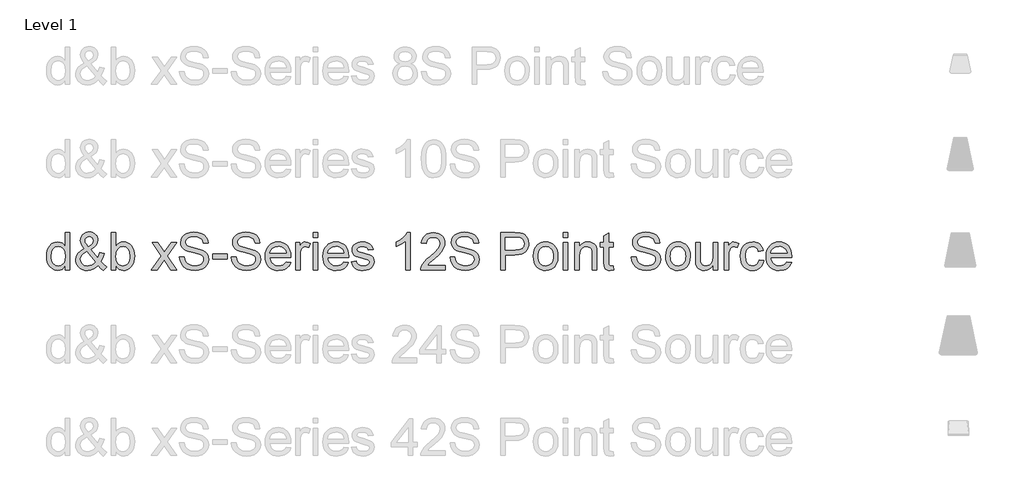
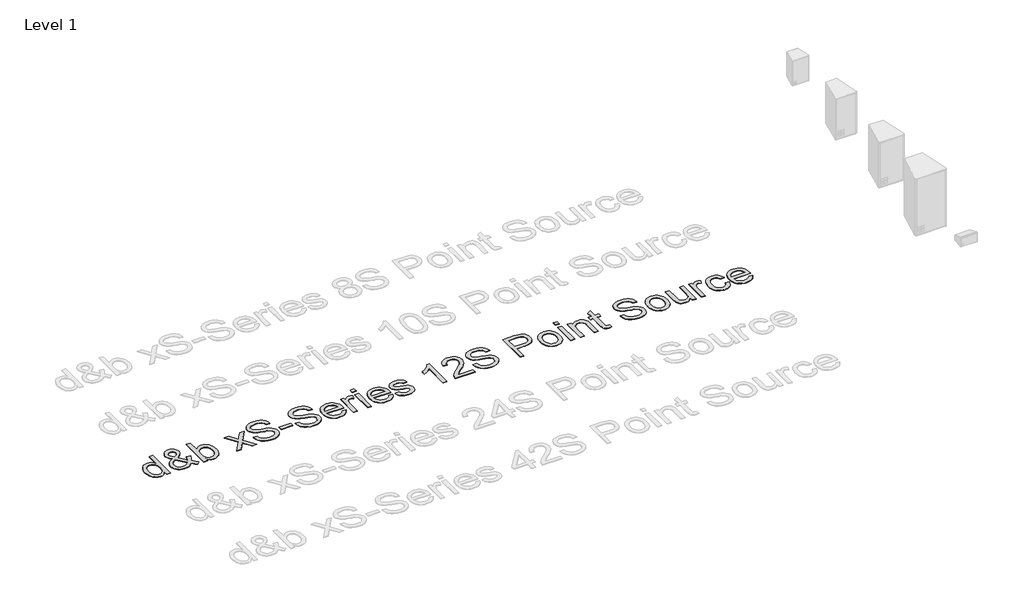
# One storey, part 46 of 55: 1 proxy.
"""IFC4 building model written with IfcOpenShell, lengths in millimetres."""

from ifc_helpers import new_model, si_unit, origin, origin_with_axes, place, context, project, spatial, polyline, outline, extrude, element, save

model = new_model("IFC4")

# Units and contexts
model_context = context("Model", 3, world=origin())
ifc_project = project(units=[si_unit("LENGTHUNIT", "METRE", prefix="MILLI")], contexts=[model_context])

# Site, building, storey
site = spatial("IfcSite", under=ifc_project)
building = spatial("IfcBuilding", under=site)
storey = spatial("IfcBuildingStorey", under=building, Name="Level 1", Elevation=0.0)

# Proxy
placement = place(None, origin())
element("IfcBuildingElementProxy", 1, Name="400mm Arial", ObjectType="400mm Arial", at=placement, inside=storey, context=model_context, shape_type="SweptSolid", body=[
    extrude(outline(polyline([(-20879.8211974, 12351.3054836), (-20879.8211974, 12398.6886846), (-20894.8491769, 12375.2116819), (-20913.0532043, 12358.4423943), (-20934.4332796, 12348.3808217), (-20958.9894028, 12345.0269642), (-20991.4611202, 12349.8830065), (-21021.1859854, 12364.4511335), (-21046.3491139, 12387.7135384), (-21065.1356211, 12418.6524142), (-21076.8342686, 12456.0169621), (-21080.7338177, 12498.5563835), (-21077.1408369, 12540.5685074), (-21066.3618944, 12578.5094038), (-21048.4092531, 12610.2208318), (-21023.2951755, 12633.5445503), (-20992.9203855, 12647.8919481), (-20959.1856065, 12652.674414), (-20934.6110892, 12649.2531115), (-20912.8815261, 12638.9892038), (-20894.4629008, 12623.2561171), (-20879.8211974, 12603.4272776), (-20879.8211974, 12753.1307242), (-20829.5930424, 12753.1307242), (-20829.5930424, 12351.3054836), (-20879.8211974, 12351.3054836)]), holes=[polyline([(-21030.5056627, 12498.7525872), (-21029.089317, 12474.3957335), (-21024.8402799, 12453.3191608), (-21017.7585515, 12435.5228693), (-21007.8441318, 12421.0068589), (-20983.1469871, 12401.6930542), (-20969.2717046, 12396.864603), (-20954.3786151, 12395.2551193), (-20939.415015, 12396.7910266), (-20925.6225058, 12401.3987486), (-20901.5507606, 12419.8296365), (-20892.0440767, 12433.7386416), (-20885.2535882, 12450.8911397), (-20879.8211974, 12494.9266145), (-20885.3516901, 12543.0701049), (-20892.2648059, 12561.6052261), (-20901.9431681, 12576.4492646), (-20913.6448812, 12587.8229496), (-20926.6280499, 12595.9470104), (-20940.8926743, 12600.8214468), (-20956.4387543, 12602.4462589), (-20971.6261493, 12600.8858262), (-20985.5014319, 12596.2045278), (-20998.064602, 12588.4023638), (-21009.3156597, 12577.4793342), (-21018.586286, 12563.1963157), (-21025.2081619, 12545.3141851), (-21030.5056627, 12498.7525872)])]), origin_with_axes(), (0.0, 0.0, 1.0), 5.0),
    extrude(outline(polyline([(-20523.809528, 12400.9450275), (-20549.3405384, 12376.4808748), (-20577.0788409, 12359.00648), (-20607.0734862, 12348.5218431), (-20639.3735254, 12345.0269642), (-20668.6814577, 12347.6144009), (-20694.8010793, 12355.376711), (-20717.7323904, 12368.3138945), (-20737.4753908, 12386.4259514), (-20750.308341, 12403.7961129), (-20759.4747341, 12422.1595558), (-20764.9745699, 12441.5162802), (-20766.8078485, 12461.8662859), (-20760.9094739, 12497.0603301), (-20743.2143499, 12528.6736562), (-20713.796053, 12556.6817387), (-20672.7281596, 12581.0600523), (-20694.6416638, 12609.4114914), (-20707.7995765, 12631.8768186), (-20714.3846642, 12651.0557332), (-20716.5796934, 12669.5479349), (-20714.8506481, 12687.1020374), (-20709.6635119, 12703.4666548), (-20701.018285, 12718.6417871), (-20688.9149674, 12732.6274343), (-20674.1935562, 12744.3444759), (-20657.6940487, 12752.7137912), (-20639.4164449, 12757.7353805), (-20619.3607448, 12759.4092436), (-20600.212487, 12757.8089569), (-20582.8913764, 12753.0080968), (-20567.397413, 12745.0066634), (-20553.7305969, 12733.8046567), (-20542.5715097, 12720.3585698), (-20534.6007332, 12705.6248959), (-20529.8182672, 12689.603635), (-20528.2241119, 12672.2947871), (-20532.9452642, 12644.31123), (-20547.108721, 12618.436863), (-20570.7144823, 12594.6716861), (-20603.7625482, 12573.0156993), (-20531.069066, 12482.4676776), (-20518.6837055, 12508.3420446), (-20509.3885538, 12538.0914353), (-20459.1603987, 12527.2021282), (-20474.6114425, 12480.6773185), (-20494.6732739, 12444.5022557), (-20466.1256311, 12411.1966724), (-20434.0463211, 12383.6790991), (-20471.7174374, 12345.0269642), (-20497.3465498, 12368.47331), (-20523.809528, 12400.9450275)]), holes=[polyline([(-20557.4584678, 12437.1446158), (-20647.1235727, 12549.0788442), (-20681.3733865, 12527.2266537), (-20702.305872, 12506.9931439), (-20713.0112381, 12487.6670765), (-20716.5796934, 12468.5372127), (-20711.6991256, 12444.8456122), (-20697.0574222, 12420.2710949), (-20686.2784798, 12409.3266056), (-20673.4639236, 12401.5091132), (-20658.6137537, 12396.8186177), (-20641.7279702, 12395.2551193), (-20619.0051256, 12398.1736498), (-20595.5710425, 12406.9292412), (-20574.1480476, 12420.3201459), (-20557.4584678, 12437.1446158)]), polyline([(-20629.1709314, 12604.7026019), (-20602.9041569, 12621.3676562), (-20587.8700461, 12635.8499441), (-20580.8067117, 12649.9398245), (-20578.452267, 12665.4276565), (-20581.5547385, 12682.9756277), (-20590.862153, 12696.9674062), (-20604.829406, 12706.1276679), (-20621.9113933, 12709.1810885), (-20639.3612626, 12706.1521934), (-20653.6473468, 12697.0655081), (-20663.1754905, 12683.6132898), (-20666.3515384, 12667.4877957), (-20662.0350563, 12649.0936959), (-20648.9875082, 12628.639457), (-20629.1709314, 12604.7026019)])]), origin_with_axes(), (0.0, 0.0, 1.0), 5.0),
    extrude(outline(polyline([(-20333.590011, 12351.3054836), (-20383.8181661, 12351.3054836), (-20383.8181661, 12753.1307242), (-20333.590011, 12753.1307242), (-20333.590011, 12604.1139907), (-20317.0721094, 12625.3591759), (-20298.4204923, 12640.5343082), (-20277.6351595, 12649.6393876), (-20254.7161112, 12652.674414), (-20228.8417442, 12649.9398245), (-20204.3898543, 12641.736056), (-20182.758393, 12628.5781433), (-20165.3453119, 12610.9811212), (-20151.6968898, 12589.116668), (-20141.3594058, 12563.1564619), (-20134.8478945, 12534.1796234), (-20132.6773907, 12503.265273), (-20134.9245365, 12467.5929822), (-20141.6659741, 12436.2126481), (-20152.9017034, 12409.1242705), (-20168.6317244, 12386.3278495), (-20187.5132678, 12368.2587122), (-20208.2035643, 12355.3521855), (-20230.702614, 12347.6082695), (-20255.0104168, 12345.0269642), (-20278.6836232, 12348.3562962), (-20299.671291, 12358.3442924), (-20317.9734203, 12374.9909527), (-20333.590011, 12398.2962771), (-20333.590011, 12351.3054836)]), holes=[polyline([(-20333.590011, 12500.9108283), (-20330.1564457, 12459.0213318), (-20319.8557498, 12430.6698927), (-20307.6849872, 12415.1759293), (-20293.5399244, 12404.1088126), (-20277.4205617, 12397.4685426), (-20259.3268989, 12395.2551193), (-20244.3050508, 12396.8860628), (-20230.3377977, 12401.7788933), (-20217.4251396, 12409.9336109), (-20205.5670767, 12421.3502155), (-20195.6526569, 12435.9980502), (-20188.5709285, 12453.8464584), (-20184.3218914, 12474.8954399), (-20182.9055458, 12499.1449947), (-20188.3379366, 12545.1057186), (-20195.1284251, 12562.8989445), (-20204.6351089, 12577.2340795), (-20216.0670419, 12588.264408), (-20228.6332778, 12596.1432141), (-20242.3338164, 12600.8704977), (-20257.1686579, 12602.4462589), (-20272.190506, 12600.8153154), (-20286.1577591, 12595.9224849), (-20299.0704171, 12587.7677673), (-20310.9284801, 12576.3511628), (-20320.8428999, 12561.8504808), (-20327.9246283, 12544.443531), (-20332.1736653, 12524.1303135), (-20333.590011, 12500.9108283)])]), origin_with_axes(), (0.0, 0.0, 1.0), 5.0),
    extrude(outline(polyline([(-19950.6003285, 12351.3054836), (-19843.2768878, 12499.7336059), (-19944.3218092, 12646.3958946), (-19884.0872638, 12646.3958946), (-19835.3306367, 12575.6644497), (-19812.4729021, 12542.4079173), (-19792.6563253, 12569.6802359), (-19737.1306695, 12646.3958946), (-19676.6999204, 12646.3958946), (-19782.8461387, 12499.635504), (-19680.623995, 12351.3054836), (-19740.9566422, 12351.3054836), (-19802.5646137, 12440.5781811), (-19813.7482263, 12456.9611926), (-19890.1695795, 12351.3054836), (-19950.6003285, 12351.3054836)])), origin_with_axes(), (0.0, 0.0, 1.0), 5.0),
    extrude(outline(polyline([(-19649.2313981, 12489.43291), (-19599.003243, 12489.43291), (-19593.2397584, 12461.5597175), (-19582.8164352, 12439.155704), (-19566.556051, 12421.3747409), (-19543.2813835, 12407.3706996), (-19514.8318425, 12398.2840144), (-19483.0468381, 12395.2551193), (-19455.063281, 12397.5482504), (-19430.5623402, 12404.4276437), (-19410.7089752, 12415.3169507), (-19396.6681457, 12429.6398231), (-19388.3172244, 12446.0841483), (-19385.533584, 12463.3378138), (-19387.6182486, 12480.150021), (-19393.8722425, 12494.6813598), (-19406.5764341, 12507.0789831), (-19428.0116917, 12517.4900435), (-19501.1466323, 12536.6689582), (-19549.1552327, 12549.360887), (-19579.8733793, 12561.4396792), (-19604.8770922, 12578.3377255), (-19622.5967416, 12598.8164899), (-19633.1549549, 12622.434514), (-19636.6743593, 12648.7503394), (-19632.3210891, 12678.1686363), (-19619.2612782, 12705.6003704), (-19597.8382834, 12728.8505125), (-19568.395461, 12745.7240333), (-19533.054264, 12755.987941), (-19493.9361452, 12759.4092436), (-19451.5561394, 12755.8285255), (-19414.4736342, 12745.0863712), (-19384.013005, 12727.40351), (-19361.4986269, 12703.000671), (-19347.249331, 12673.3984331), (-19341.5839483, 12640.1173753), (-19391.8121033, 12640.1173753), (-19401.0336787, 12670.0874951), (-19409.3968627, 12681.9455581), (-19420.2616443, 12691.7189564), (-19450.3053406, 12704.8155555), (-19491.9741079, 12709.1810885), (-19534.6238939, 12704.8646064), (-19550.9271976, 12699.4690038), (-19563.8827752, 12691.9151602), (-19580.805347, 12672.8588728), (-19586.4462043, 12650.2218674), (-19582.4485532, 12630.9203254), (-19570.4556002, 12615.3957052), (-19542.1041611, 12601.5142912), (-19488.4424407, 12587.3385717), (-19433.0639377, 12573.8740907), (-19399.5621507, 12562.1263923), (-19370.9286687, 12543.9039708), (-19350.9526764, 12521.4141181), (-19339.2172408, 12494.902089), (-19335.3054289, 12464.6131381), (-19339.805852, 12433.6497368), (-19353.3071212, 12404.5257455), (-19375.2574136, 12379.4607189), (-19405.1049061, 12360.6742117), (-19440.9979261, 12348.9387761), (-19481.0848008, 12345.0269642), (-19530.2951491, 12349.2453444), (-19570.7989567, 12361.900485), (-19603.0622077, 12383.041437), (-19627.5508858, 12412.7172513), (-19643.2717098, 12448.8677887), (-19649.2313981, 12489.43291)])), origin_with_axes(), (0.0, 0.0, 1.0), 5.0),
    extrude(outline(polyline([(-19291.3557932, 12470.5973519), (-19291.3557932, 12520.825507), (-19134.3928086, 12520.825507), (-19134.3928086, 12470.5973519), (-19291.3557932, 12470.5973519)])), origin_with_axes(), (0.0, 0.0, 1.0), 5.0),
    extrude(outline(polyline([(-19090.4431729, 12489.43291), (-19040.2150178, 12489.43291), (-19034.4515332, 12461.5597175), (-19024.02821, 12439.155704), (-19007.7678258, 12421.3747409), (-18984.4931583, 12407.3706996), (-18956.0436173, 12398.2840144), (-18924.2586129, 12395.2551193), (-18896.2750558, 12397.5482504), (-18871.774115, 12404.4276437), (-18851.9207499, 12415.3169507), (-18837.8799205, 12429.6398231), (-18829.5289992, 12446.0841483), (-18826.7453587, 12463.3378138), (-18828.8300234, 12480.150021), (-18835.0840173, 12494.6813598), (-18847.7882089, 12507.0789831), (-18869.2234665, 12517.4900435), (-18942.3584071, 12536.6689582), (-18990.3670075, 12549.360887), (-19021.0851541, 12561.4396792), (-19046.088867, 12578.3377255), (-19063.8085164, 12598.8164899), (-19074.3667297, 12622.434514), (-19077.8861341, 12648.7503394), (-19073.5328638, 12678.1686363), (-19060.473053, 12705.6003704), (-19039.0500582, 12728.8505125), (-19009.6072358, 12745.7240333), (-18974.2660388, 12755.987941), (-18935.14792, 12759.4092436), (-18892.7679141, 12755.8285255), (-18855.685409, 12745.0863712), (-18825.2247798, 12727.40351), (-18802.7104017, 12703.000671), (-18788.4611058, 12673.3984331), (-18782.7957231, 12640.1173753), (-18833.0238781, 12640.1173753), (-18842.2454535, 12670.0874951), (-18850.6086375, 12681.9455581), (-18861.4734191, 12691.7189564), (-18891.5171154, 12704.8155555), (-18933.1858827, 12709.1810885), (-18975.8356687, 12704.8646064), (-18992.1389724, 12699.4690038), (-19005.09455, 12691.9151602), (-19022.0171218, 12672.8588728), (-19027.657979, 12650.2218674), (-19023.660328, 12630.9203254), (-19011.667375, 12615.3957052), (-18983.3159359, 12601.5142912), (-18929.6542155, 12587.3385717), (-18874.2757125, 12573.8740907), (-18840.7739255, 12562.1263923), (-18812.1404435, 12543.9039708), (-18792.1644512, 12521.4141181), (-18780.4290156, 12494.902089), (-18776.5172037, 12464.6131381), (-18781.0176267, 12433.6497368), (-18794.518896, 12404.5257455), (-18816.4691883, 12379.4607189), (-18846.3166809, 12360.6742117), (-18882.2097009, 12348.9387761), (-18922.2965756, 12345.0269642), (-18971.5069238, 12349.2453444), (-19012.0107315, 12361.900485), (-19044.2739825, 12383.041437), (-19068.7626606, 12412.7172513), (-19084.4834846, 12448.8677887), (-19090.4431729, 12489.43291)])), origin_with_axes(), (0.0, 0.0, 1.0), 5.0),
    extrude(outline(polyline([(-18500.850962, 12439.204755), (-18451.6038255, 12432.9262356), (-18459.1546035, 12413.2016293), (-18469.3480004, 12395.819205), (-18482.1840164, 12380.7789628), (-18497.6626513, 12368.0809026), (-18515.6244897, 12357.9948045), (-18535.9101161, 12350.7904488), (-18583.4527326, 12345.0269642), (-18614.618469, 12347.5132333), (-18642.3874282, 12354.9720408), (-18666.7596104, 12367.4033865), (-18687.7350155, 12384.8072706), (-18704.602405, 12406.699315), (-18716.6505403, 12432.5951418), (-18723.8794215, 12462.4947509), (-18726.2890486, 12496.3981425), (-18723.8548961, 12531.4511652), (-18716.5524385, 12562.3471215), (-18704.3816758, 12589.0860112), (-18687.342608, 12611.6678343), (-18666.4223852, 12629.6082129), (-18642.6081574, 12642.4227691), (-18615.8999246, 12650.1115028), (-18586.2976867, 12652.674414), (-18557.6488763, 12650.1176342), (-18531.7407868, 12642.4472946), (-18508.5734182, 12629.6633952), (-18488.1467704, 12611.7659362), (-18471.472519, 12589.233164), (-18459.5623394, 12562.5433252), (-18452.4162316, 12531.6964199), (-18450.0341957, 12496.6924481), (-18450.3285013, 12483.1543906), (-18676.0608935, 12483.1543906), (-18673.1515601, 12463.1109533), (-18667.3666157, 12445.5568507), (-18658.7060604, 12430.492083), (-18647.1698942, 12417.9166502), (-18633.3957791, 12408.0022304), (-18618.0213774, 12400.920502), (-18582.4717139, 12395.2551193), (-18555.7389556, 12397.8793442), (-18533.2245775, 12405.7520189), (-18514.9285796, 12419.3636527), (-18500.850962, 12439.204755)]), holes=[polyline([(-18676.0608935, 12533.3825457), (-18500.2623508, 12533.3825457), (-18507.0559049, 12559.9191003), (-18520.3732332, 12578.9018113), (-18534.0707061, 12589.2025071), (-18549.65664, 12596.560147), (-18567.1310348, 12600.974731), (-18586.4938904, 12602.4462589), (-18620.3512967, 12597.7496321), (-18648.3471166, 12583.6597517), (-18667.8080741, 12561.6971966), (-18676.0608935, 12533.3825457)])]), origin_with_axes(), (0.0, 0.0, 1.0), 5.0),
    extrude(outline(polyline([(-18399.8060406, 12351.3054836), (-18399.8060406, 12646.3958946), (-18355.8564049, 12646.3958946), (-18355.8564049, 12602.7405645), (-18339.6205462, 12628.0508458), (-18324.6600117, 12642.9623293), (-18309.6504263, 12650.2463929), (-18293.2674148, 12652.674414), (-18268.2514391, 12648.7993903), (-18242.843056, 12637.1743193), (-18259.618475, 12592.1455631), (-18277.2768108, 12599.871085), (-18294.9351465, 12602.4462589), (-18309.9324692, 12599.9691868), (-18323.3356365, 12592.5379705), (-18334.1636299, 12580.7166958), (-18341.4354307, 12565.0694482), (-18347.5422718, 12537.0123147), (-18349.5778855, 12506.4045327), (-18349.5778855, 12351.3054836), (-18399.8060406, 12351.3054836)])), origin_with_axes(), (0.0, 0.0, 1.0), 5.0),
    extrude(outline(polyline([(-18211.4504591, 12702.9025691), (-18211.4504591, 12753.1307242), (-18161.222304, 12753.1307242), (-18161.222304, 12702.9025691), (-18211.4504591, 12702.9025691)])), origin_with_axes(), (0.0, 0.0, 1.0), 5.0),
    extrude(outline(polyline([(-18211.4504591, 12351.3054836), (-18211.4504591, 12646.3958946), (-18161.222304, 12646.3958946), (-18161.222304, 12351.3054836), (-18211.4504591, 12351.3054836)])), origin_with_axes(), (0.0, 0.0, 1.0), 5.0),
    extrude(outline(polyline([(-17879.2775429, 12439.204755), (-17830.0304065, 12432.9262356), (-17837.5811844, 12413.2016293), (-17847.7745814, 12395.819205), (-17860.6105973, 12380.7789628), (-17876.0892323, 12368.0809026), (-17894.0510707, 12357.9948045), (-17914.336697, 12350.7904488), (-17961.8793136, 12345.0269642), (-17993.0450499, 12347.5132333), (-18020.8140092, 12354.9720408), (-18045.1861914, 12367.4033865), (-18066.1615965, 12384.8072706), (-18083.0289859, 12406.699315), (-18095.0771213, 12432.5951418), (-18102.3060025, 12462.4947509), (-18104.7156295, 12496.3981425), (-18102.281477, 12531.4511652), (-18094.9790194, 12562.3471215), (-18082.8082567, 12589.0860112), (-18065.769189, 12611.6678343), (-18044.8489662, 12629.6082129), (-18021.0347384, 12642.4227691), (-17994.3265055, 12650.1115028), (-17964.7242676, 12652.674414), (-17936.0754573, 12650.1176342), (-17910.1673678, 12642.4472946), (-17886.9999991, 12629.6633952), (-17866.5733513, 12611.7659362), (-17849.8990999, 12589.233164), (-17837.9889203, 12562.5433252), (-17830.8428126, 12531.6964199), (-17828.4607766, 12496.6924481), (-17828.7550822, 12483.1543906), (-18054.4874745, 12483.1543906), (-18051.578141, 12463.1109533), (-18045.7931967, 12445.5568507), (-18037.1326413, 12430.492083), (-18025.5964751, 12417.9166502), (-18011.8223601, 12408.0022304), (-17996.4479584, 12400.920502), (-17960.8982949, 12395.2551193), (-17934.1655366, 12397.8793442), (-17911.6511585, 12405.7520189), (-17893.3551606, 12419.3636527), (-17879.2775429, 12439.204755)]), holes=[polyline([(-18054.4874745, 12533.3825457), (-17878.6889317, 12533.3825457), (-17885.4824859, 12559.9191003), (-17898.7998141, 12578.9018113), (-17912.4972871, 12589.2025071), (-17928.0832209, 12596.560147), (-17945.5576157, 12600.974731), (-17964.9204714, 12602.4462589), (-17998.7778777, 12597.7496321), (-18026.7736975, 12583.6597517), (-18046.234655, 12561.6971966), (-18054.4874745, 12533.3825457)])]), origin_with_axes(), (0.0, 0.0, 1.0), 5.0),
    extrude(outline(polyline([(-17797.0681797, 12439.204755), (-17746.8400246, 12445.4832743), (-17738.918299, 12423.9989658), (-17723.5898825, 12408.2045655), (-17700.7566734, 12398.4924808), (-17670.3205696, 12395.2551193), (-17640.2523479, 12398.2227007), (-17619.1113959, 12407.125445), (-17606.6034081, 12420.0258403), (-17602.4340788, 12434.9863747), (-17606.6279335, 12447.7886682), (-17619.2094978, 12457.5498038), (-17670.9091808, 12471.8726761), (-17746.545719, 12496.4471934), (-17765.6878455, 12508.7957657), (-17779.5569967, 12525.141989), (-17787.9814944, 12544.443531), (-17790.7896603, 12565.6580594), (-17788.5333174, 12585.119017), (-17781.7642887, 12603.0839211), (-17771.0957109, 12618.8415332), (-17757.1407205, 12631.6806148), (-17725.2085633, 12646.5430474), (-17704.3251287, 12651.1415724), (-17681.9946916, 12652.674414), (-17649.302245, 12650.2096047), (-17620.8772295, 12642.8151766), (-17598.0194949, 12631.214631), (-17582.0288908, 12616.1314692), (-17571.4338893, 12596.4497824), (-17564.7629625, 12571.053662), (-17614.9911176, 12564.7751426), (-17621.3309506, 12580.5818057), (-17633.8757267, 12592.4889196), (-17652.748073, 12599.9569241), (-17678.070617, 12602.4462589), (-17706.9125654, 12600.0672887), (-17726.140531, 12592.930378), (-17736.9562617, 12582.6296821), (-17740.5615053, 12570.7593564), (-17734.5772915, 12556.1421785), (-17715.8398352, 12545.0566677), (-17672.5769125, 12534.3635644), (-17598.8533607, 12510.7210148), (-17579.3801404, 12499.4147748), (-17564.6158097, 12483.9392056), (-17555.3083952, 12464.2452561), (-17552.2059237, 12440.2838755), (-17555.8479555, 12415.5131545), (-17566.7740507, 12392.2139614), (-17584.5672766, 12372.2134436), (-17608.8107, 12357.3387483), (-17638.0941069, 12348.1049102), (-17671.0072827, 12345.0269642), (-17698.040478, 12346.5107549), (-17721.6523707, 12350.962127), (-17741.8429609, 12358.3810806), (-17758.6122485, 12368.7676156), (-17772.3097214, 12382.0726811), (-17783.2848676, 12398.2472262), (-17791.5376871, 12417.2912508), (-17797.0681797, 12439.204755)])), origin_with_axes(), (0.0, 0.0, 1.0), 5.0),
    extrude(outline(polyline([(-17162.9377219, 12351.3054836), (-17213.165877, 12351.3054836), (-17213.165877, 12664.4466379), (-17234.1351507, 12647.4872779), (-17260.7452817, 12630.5524434), (-17313.6221871, 12605.1931112), (-17313.6221871, 12652.674414), (-17274.1729745, 12674.1341971), (-17239.9967371, 12699.6652075), (-17213.0555124, 12726.8148988), (-17195.3113375, 12753.1307242), (-17162.9377219, 12753.1307242), (-17162.9377219, 12351.3054836)])), origin_with_axes(), (0.0, 0.0, 1.0), 5.0),
    extrude(outline(polyline([(-16786.2265588, 12401.5336386), (-16786.2265588, 12351.3054836), (-17049.924373, 12351.3054836), (-17048.820727, 12368.9883448), (-17044.5287704, 12385.9354421), (-17032.1311471, 12412.9992942), (-17013.9700393, 12439.2538059), (-16987.7155276, 12466.7345909), (-16951.0376927, 12497.477263), (-16896.8486748, 12545.6207534), (-16864.3646946, 12581.1581542), (-16848.1410986, 12610.0001026), (-16842.7332333, 12638.0572361), (-16847.846793, 12663.2081018), (-16863.1874722, 12684.1160619), (-16886.7687081, 12698.2059423), (-16916.6039379, 12702.9025691), (-16947.9352212, 12698.3163069), (-16972.2767465, 12684.5575203), (-16987.9853077, 12662.7053298), (-16993.4176985, 12633.8388559), (-17043.6458536, 12640.1173753), (-17039.3263058, 12666.0469245), (-17031.4689596, 12688.7023241), (-17020.0738147, 12708.0835739), (-17005.1408714, 12724.1906739), (-16987.0134861, 12736.8519459), (-16966.0350153, 12745.8957116), (-16942.2054591, 12751.321971), (-16915.5248174, 12753.1307242), (-16888.6050524, 12751.1196359), (-16864.6467375, 12745.0863712), (-16843.6498726, 12735.03093), (-16825.6144578, 12720.9533123), (-16811.1291042, 12703.8958505), (-16800.7824231, 12684.9008768), (-16794.5744144, 12663.9683913), (-16792.5050782, 12641.0983939), (-16794.7368957, 12617.0756996), (-16801.432348, 12593.4699383), (-16813.3149364, 12569.4595067), (-16831.1081622, 12544.2228018), (-16859.4718641, 12514.0932664), (-16903.0658805, 12475.4043433), (-16960.8478792, 12427.0891746), (-16983.5094101, 12401.5336386), (-16786.2265588, 12401.5336386)])), origin_with_axes(), (0.0, 0.0, 1.0), 5.0),
    extrude(outline(polyline([(-16735.9984038, 12489.43291), (-16685.7702487, 12489.43291), (-16680.0067641, 12461.5597175), (-16669.5834409, 12439.155704), (-16653.3230567, 12421.3747409), (-16630.0483891, 12407.3706996), (-16601.5988482, 12398.2840144), (-16569.8138438, 12395.2551193), (-16541.8302867, 12397.5482504), (-16517.3293458, 12404.4276437), (-16497.4759808, 12415.3169507), (-16483.4351513, 12429.6398231), (-16475.08423, 12446.0841483), (-16472.3005896, 12463.3378138), (-16474.3852543, 12480.150021), (-16480.6392482, 12494.6813598), (-16493.3434397, 12507.0789831), (-16514.7786973, 12517.4900435), (-16587.913638, 12536.6689582), (-16635.9222383, 12549.360887), (-16666.6403849, 12561.4396792), (-16691.6440979, 12578.3377255), (-16709.3637473, 12598.8164899), (-16719.9219606, 12622.434514), (-16723.441365, 12648.7503394), (-16719.0880947, 12678.1686363), (-16706.0282839, 12705.6003704), (-16684.605289, 12728.8505125), (-16655.1624667, 12745.7240333), (-16619.8212697, 12755.987941), (-16580.7031509, 12759.4092436), (-16538.323145, 12755.8285255), (-16501.2406399, 12745.0863712), (-16470.7800107, 12727.40351), (-16448.2656326, 12703.000671), (-16434.0163367, 12673.3984331), (-16428.3509539, 12640.1173753), (-16478.579109, 12640.1173753), (-16487.8006843, 12670.0874951), (-16496.1638684, 12681.9455581), (-16507.02865, 12691.7189564), (-16537.0723462, 12704.8155555), (-16578.7411136, 12709.1810885), (-16621.3908995, 12704.8646064), (-16637.6942033, 12699.4690038), (-16650.6497809, 12691.9151602), (-16667.5723527, 12672.8588728), (-16673.2132099, 12650.2218674), (-16669.2155589, 12630.9203254), (-16657.2226059, 12615.3957052), (-16628.8711668, 12601.5142912), (-16575.2094464, 12587.3385717), (-16519.8309434, 12573.8740907), (-16486.3291564, 12562.1263923), (-16457.6956744, 12543.9039708), (-16437.7196821, 12521.4141181), (-16425.9842464, 12494.902089), (-16422.0724345, 12464.6131381), (-16426.5728576, 12433.6497368), (-16440.0741268, 12404.5257455), (-16462.0244192, 12379.4607189), (-16491.8719118, 12360.6742117), (-16527.7649318, 12348.9387761), (-16567.8518065, 12345.0269642), (-16617.0621547, 12349.2453444), (-16657.5659624, 12361.900485), (-16689.8292134, 12383.041437), (-16714.3178915, 12412.7172513), (-16730.0387154, 12448.8677887), (-16735.9984038, 12489.43291)])), origin_with_axes(), (0.0, 0.0, 1.0), 5.0),
    extrude(outline(polyline([(-16189.7672173, 12351.3054836), (-16189.7672173, 12753.1307242), (-16040.8485857, 12753.1307242), (-15980.8102441, 12749.3047514), (-15954.0406975, 12742.155578), (-15932.004566, 12730.5182442), (-15914.2603911, 12713.8654526), (-15900.3667144, 12691.6699055), (-15891.3903938, 12665.4889702), (-15888.3982869, 12636.8800137), (-15890.4185722, 12612.2135259), (-15896.479428, 12589.5213382), (-15906.5808545, 12568.8034505), (-15920.7228515, 12550.0598628), (-15940.1378238, 12534.5229799), (-15966.0581761, 12523.4252064), (-15998.4839082, 12516.7665423), (-16037.4150204, 12514.5469876), (-16139.5390622, 12514.5469876), (-16139.5390622, 12351.3054836), (-16189.7672173, 12351.3054836)]), holes=[polyline([(-16139.5390622, 12564.7751426), (-16034.4719644, 12564.7751426), (-15989.9337175, 12569.3859303), (-15973.3299768, 12575.1494149), (-15960.5031579, 12583.2182933), (-15950.9320947, 12593.3779678), (-15944.0956209, 12605.4138404), (-15938.6264419, 12635.1141801), (-15941.8515408, 12657.6776092), (-15951.5268372, 12676.709371), (-15966.4505835, 12691.0322434), (-15985.4210317, 12699.4690038), (-16035.6491868, 12702.9025691), (-16139.5390622, 12702.9025691), (-16139.5390622, 12564.7751426)])]), origin_with_axes(), (0.0, 0.0, 1.0), 5.0),
    extrude(outline(polyline([(-15838.1701318, 12498.8506891), (-15835.4539364, 12537.067497), (-15827.3053502, 12569.999067), (-15813.7243732, 12597.6453989), (-15794.7110054, 12620.0064928), (-15775.5688789, 12634.2987084), (-15754.4401897, 12644.5074337), (-15731.3249377, 12650.6326689), (-15706.2231229, 12652.674414), (-15678.5124116, 12650.1881449), (-15653.456582, 12642.7293374), (-15631.0556342, 12630.2979917), (-15611.3095681, 12612.8941076), (-15595.193271, 12591.1062964), (-15583.6816303, 12565.5231694), (-15576.7746458, 12536.1447264), (-15574.4723177, 12502.9709675), (-15578.5435451, 12452.2277776), (-15590.7572273, 12413.6001681), (-15610.7577451, 12384.6723805), (-15638.1894792, 12363.0286565), (-15670.7715613, 12349.5273873), (-15706.2231229, 12345.0269642), (-15734.3385043, 12347.5040363), (-15759.6273258, 12354.9352526), (-15782.0895873, 12367.3206131), (-15801.7252888, 12384.6601178), (-15817.6699076, 12406.6594611), (-15829.058921, 12433.0243374), (-15835.8923291, 12463.7547468), (-15838.1701318, 12498.8506891)]), holes=[polyline([(-15787.9419767, 12498.948791), (-15786.4888428, 12474.5858058), (-15782.1294412, 12453.4908391), (-15774.8637718, 12435.6638907), (-15764.6918346, 12421.1049608), (-15752.3187369, 12409.7956551), (-15738.4495856, 12401.7175796), (-15723.084381, 12396.8707344), (-15706.2231229, 12395.2551193), (-15689.4477039, 12396.8799314), (-15674.1438129, 12401.7543678), (-15660.3114499, 12409.8784286), (-15647.9506148, 12421.2521136), (-15637.7786777, 12435.9551307), (-15630.5130083, 12454.0671876), (-15626.1536066, 12475.5882843), (-15624.7004727, 12500.5184208), (-15626.1628037, 12524.1088538), (-15630.5497965, 12544.6519975), (-15637.8614511, 12562.1478521), (-15648.0977676, 12576.5964174), (-15660.5045879, 12587.9057231), (-15674.3277539, 12595.9837986), (-15689.5672655, 12600.8306439), (-15706.2231229, 12602.4462589), (-15723.084381, 12600.8367752), (-15738.4495856, 12596.008324), (-15752.3187369, 12587.9609054), (-15764.6918346, 12576.6945193), (-15774.8637718, 12562.1785089), (-15782.1294412, 12544.3822174), (-15786.4888428, 12523.3056447), (-15787.9419767, 12498.948791)])]), origin_with_axes(), (0.0, 0.0, 1.0), 5.0),
    extrude(outline(polyline([(-15517.9656432, 12351.3054836), (-15517.9656432, 12646.3958946), (-15467.7374881, 12646.3958946), (-15467.7374881, 12351.3054836), (-15517.9656432, 12351.3054836)])), origin_with_axes(), (0.0, 0.0, 1.0), 5.0),
    extrude(outline(polyline([(-15517.9656432, 12702.9025691), (-15517.9656432, 12753.1307242), (-15467.7374881, 12753.1307242), (-15467.7374881, 12702.9025691), (-15517.9656432, 12702.9025691)])), origin_with_axes(), (0.0, 0.0, 1.0), 5.0),
    extrude(outline(polyline([(-15392.3952555, 12351.3054836), (-15392.3952555, 12646.3958946), (-15342.1671004, 12646.3958946), (-15342.1671004, 12605.1931112), (-15324.7172311, 12625.9661812), (-15303.7602201, 12640.8040883), (-15279.2960675, 12649.7068326), (-15251.3247731, 12652.674414), (-15226.5663148, 12650.2831811), (-15203.8925212, 12643.1094821), (-15184.9833866, 12632.0484968), (-15171.5189056, 12617.9954046), (-15162.3831694, 12600.9869937), (-15156.4602693, 12581.0600523), (-15153.8115189, 12532.4996289), (-15153.8115189, 12351.3054836), (-15204.039674, 12351.3054836), (-15204.039674, 12525.7306002), (-15205.4866765, 12551.7030691), (-15209.827684, 12570.1707452), (-15217.8352488, 12583.4022343), (-15230.281923, 12593.666142), (-15246.2357388, 12600.2512297), (-15264.7647286, 12602.4462589), (-15294.1830255, 12597.5166402), (-15319.2603149, 12582.727784), (-15329.2820336, 12570.6551232), (-15336.440404, 12554.1556157), (-15340.7354263, 12533.2292616), (-15342.1671004, 12507.8760607), (-15342.1671004, 12351.3054836), (-15392.3952555, 12351.3054836)])), origin_with_axes(), (0.0, 0.0, 1.0), 5.0),
    extrude(outline(polyline([(-14978.0129761, 12393.1949801), (-14971.7344568, 12349.8339556), (-15009.3074712, 12345.0269642), (-15033.4160046, 12347.1116288), (-15051.3931714, 12353.3656227), (-15064.097363, 12363.004131), (-15072.3869706, 12375.2423387), (-15076.9487074, 12396.2606634), (-15078.4692863, 12432.2395225), (-15078.4692863, 12596.1677396), (-15116.1404026, 12596.1677396), (-15116.1404026, 12646.3958946), (-15078.4692863, 12646.3958946), (-15078.4692863, 12718.1083582), (-15028.2411312, 12747.6370197), (-15028.2411312, 12646.3958946), (-14978.0129761, 12646.3958946), (-14978.0129761, 12596.1677396), (-15028.2411312, 12596.1677396), (-15028.2411312, 12433.7110505), (-15025.5923808, 12407.812158), (-15017.0084676, 12398.6396336), (-14999.8896921, 12395.2551193), (-14978.0129761, 12393.1949801)])), origin_with_axes(), (0.0, 0.0, 1.0), 5.0),
    extrude(outline(polyline([(-14783.3788752, 12489.43291), (-14733.1507201, 12489.43291), (-14727.3872356, 12461.5597175), (-14716.9639124, 12439.155704), (-14700.7035282, 12421.3747409), (-14677.4288606, 12407.3706996), (-14648.9793197, 12398.2840144), (-14617.1943153, 12395.2551193), (-14589.2107582, 12397.5482504), (-14564.7098173, 12404.4276437), (-14544.8564523, 12415.3169507), (-14530.8156228, 12429.6398231), (-14522.4647015, 12446.0841483), (-14519.6810611, 12463.3378138), (-14521.7657257, 12480.150021), (-14528.0197196, 12494.6813598), (-14540.7239112, 12507.0789831), (-14562.1591688, 12517.4900435), (-14635.2941094, 12536.6689582), (-14683.3027098, 12549.360887), (-14714.0208564, 12561.4396792), (-14739.0245693, 12578.3377255), (-14756.7442188, 12598.8164899), (-14767.302432, 12622.434514), (-14770.8218365, 12648.7503394), (-14766.4685662, 12678.1686363), (-14753.4087554, 12705.6003704), (-14731.9857605, 12728.8505125), (-14702.5429382, 12745.7240333), (-14667.2017411, 12755.987941), (-14628.0836223, 12759.4092436), (-14585.7036165, 12755.8285255), (-14548.6211114, 12745.0863712), (-14518.1604822, 12727.40351), (-14495.6461041, 12703.000671), (-14481.3968081, 12673.3984331), (-14475.7314254, 12640.1173753), (-14525.9595805, 12640.1173753), (-14535.1811558, 12670.0874951), (-14543.5443398, 12681.9455581), (-14554.4091214, 12691.7189564), (-14584.4528177, 12704.8155555), (-14626.121585, 12709.1810885), (-14668.771371, 12704.8646064), (-14685.0746747, 12699.4690038), (-14698.0302523, 12691.9151602), (-14714.9528241, 12672.8588728), (-14720.5936814, 12650.2218674), (-14716.5960304, 12630.9203254), (-14704.6030773, 12615.3957052), (-14676.2516382, 12601.5142912), (-14622.5899179, 12587.3385717), (-14567.2114149, 12573.8740907), (-14533.7096278, 12562.1263923), (-14505.0761459, 12543.9039708), (-14485.1001535, 12521.4141181), (-14473.3647179, 12494.902089), (-14469.452906, 12464.6131381), (-14473.9533291, 12433.6497368), (-14487.4545983, 12404.5257455), (-14509.4048907, 12379.4607189), (-14539.2523832, 12360.6742117), (-14575.1454032, 12348.9387761), (-14615.232278, 12345.0269642), (-14664.4426262, 12349.2453444), (-14704.9464339, 12361.900485), (-14737.2096848, 12383.041437), (-14761.698363, 12412.7172513), (-14777.4191869, 12448.8677887), (-14783.3788752, 12489.43291)])), origin_with_axes(), (0.0, 0.0, 1.0), 5.0),
    extrude(outline(polyline([(-14412.9462315, 12498.8506891), (-14410.2300362, 12537.067497), (-14402.08145, 12569.999067), (-14388.500473, 12597.6453989), (-14369.4871052, 12620.0064928), (-14350.3449787, 12634.2987084), (-14329.2162894, 12644.5074337), (-14306.1010374, 12650.6326689), (-14280.9992226, 12652.674414), (-14253.2885113, 12650.1881449), (-14228.2326818, 12642.7293374), (-14205.8317339, 12630.2979917), (-14186.0856679, 12612.8941076), (-14169.9693708, 12591.1062964), (-14158.45773, 12565.5231694), (-14151.5507456, 12536.1447264), (-14149.2484174, 12502.9709675), (-14153.3196448, 12452.2277776), (-14165.5333271, 12413.6001681), (-14185.5338449, 12384.6723805), (-14212.965579, 12363.0286565), (-14245.547661, 12349.5273873), (-14280.9992226, 12345.0269642), (-14309.1146041, 12347.5040363), (-14334.4034256, 12354.9352526), (-14356.8656871, 12367.3206131), (-14376.5013886, 12384.6601178), (-14392.4460074, 12406.6594611), (-14403.8350208, 12433.0243374), (-14410.6684289, 12463.7547468), (-14412.9462315, 12498.8506891)]), holes=[polyline([(-14362.7180765, 12498.948791), (-14361.2649426, 12474.5858058), (-14356.9055409, 12453.4908391), (-14349.6398715, 12435.6638907), (-14339.4679344, 12421.1049608), (-14327.0948366, 12409.7956551), (-14313.2256854, 12401.7175796), (-14297.8604807, 12396.8707344), (-14280.9992226, 12395.2551193), (-14264.2238036, 12396.8799314), (-14248.9199126, 12401.7543678), (-14235.0875496, 12409.8784286), (-14222.7267146, 12421.2521136), (-14212.5547774, 12435.9551307), (-14205.289108, 12454.0671876), (-14200.9297064, 12475.5882843), (-14199.4765725, 12500.5184208), (-14200.9389034, 12524.1088538), (-14205.3258962, 12544.6519975), (-14212.6375509, 12562.1478521), (-14222.8738674, 12576.5964174), (-14235.2806877, 12587.9057231), (-14249.1038536, 12595.9837986), (-14264.3433653, 12600.8306439), (-14280.9992226, 12602.4462589), (-14297.8604807, 12600.8367752), (-14313.2256854, 12596.008324), (-14327.0948366, 12587.9609054), (-14339.4679344, 12576.6945193), (-14349.6398715, 12562.1785089), (-14356.9055409, 12544.3822174), (-14361.2649426, 12523.3056447), (-14362.7180765, 12498.948791)])]), origin_with_axes(), (0.0, 0.0, 1.0), 5.0),
    extrude(outline(polyline([(-13904.3861614, 12351.3054836), (-13904.3861614, 12402.024148), (-13922.559532, 12377.0878801), (-13943.7250094, 12359.2762601), (-13967.8825938, 12348.5892882), (-13995.032285, 12345.0269642), (-14019.4964377, 12347.5285618), (-14042.2683332, 12355.0333545), (-14061.3736715, 12366.315069), (-14074.8381525, 12380.147432), (-14083.9003123, 12396.9473764), (-14089.798687, 12417.1318352), (-14092.7417429, 12463.8283232), (-14092.7417429, 12646.3958946), (-14042.5135879, 12646.3958946), (-14042.5135879, 12487.4708727), (-14039.47243, 12436.261699), (-14032.1515783, 12419.1797117), (-14019.6068023, 12406.1934773), (-14002.6719678, 12397.9897088), (-13982.1809407, 12395.2551193), (-13960.5126911, 12398.0510224), (-13940.2423932, 12406.4387319), (-13923.5282879, 12419.6456955), (-13912.5286162, 12436.8993611), (-13906.4217751, 12460.5296479), (-13904.3861614, 12492.8664753), (-13904.3861614, 12646.3958946), (-13854.1580063, 12646.3958946), (-13854.1580063, 12351.3054836), (-13904.3861614, 12351.3054836)])), origin_with_axes(), (0.0, 0.0, 1.0), 5.0),
    extrude(outline(polyline([(-13785.0942931, 12351.3054836), (-13785.0942931, 12646.3958946), (-13741.1446574, 12646.3958946), (-13741.1446574, 12602.7405645), (-13724.9087987, 12628.0508458), (-13709.9482642, 12642.9623293), (-13694.9386788, 12650.2463929), (-13678.5556673, 12652.674414), (-13653.5396916, 12648.7993903), (-13628.1313085, 12637.1743193), (-13644.9067275, 12592.1455631), (-13662.5650633, 12599.871085), (-13680.223399, 12602.4462589), (-13695.2207217, 12599.9691868), (-13708.623889, 12592.5379705), (-13719.4518824, 12580.7166958), (-13726.7236832, 12565.0694482), (-13732.8305243, 12537.0123147), (-13734.866138, 12506.4045327), (-13734.866138, 12351.3054836), (-13785.0942931, 12351.3054836)])), origin_with_axes(), (0.0, 0.0, 1.0), 5.0),
    extrude(outline(polyline([(-13408.3831301, 12458.0403131), (-13358.154975, 12451.7617937), (-13363.6180226, 12428.0609962), (-13372.1590163, 12407.0886568), (-13383.7779559, 12388.8447755), (-13398.4748416, 12373.3293524), (-13415.6304054, 12360.9470575), (-13434.625379, 12352.1025612), (-13455.4597627, 12346.7958634), (-13478.1335563, 12345.0269642), (-13506.3041201, 12347.4948392), (-13531.5622848, 12354.8984644), (-13553.9080503, 12367.2378396), (-13573.3414167, 12384.512965), (-13589.0714377, 12406.398878), (-13600.3071669, 12432.5706163), (-13607.0486045, 12463.0281798), (-13609.2957504, 12497.7715686), (-13605.4575149, 12542.469231), (-13593.9428084, 12581.2072051), (-13574.56769, 12612.4894374), (-13547.1482186, 12634.8198745), (-13514.3454074, 12648.2107791), (-13478.8202694, 12652.674414), (-13456.5358175, 12651.1415724), (-13436.3789499, 12646.5430474), (-13418.3496664, 12638.8788392), (-13402.4479672, 12628.1489477), (-13388.9436323, 12614.5986275), (-13378.1064418, 12598.4731334), (-13369.9363959, 12579.7724653), (-13364.4334944, 12558.4966233), (-13414.6616494, 12552.2181039), (-13423.7728602, 12574.1316081), (-13437.9608425, 12589.8401692), (-13456.4407814, 12599.2947365), (-13478.4278619, 12602.4462589), (-13495.4945208, 12600.8950232), (-13510.8873166, 12596.241316), (-13524.6062494, 12588.4851372), (-13536.651319, 12577.626487), (-13546.4584399, 12563.4139793), (-13553.4635262, 12545.596228), (-13557.666578, 12524.1732331), (-13559.0675953, 12499.1449947), (-13553.5861535, 12452.0683621), (-13546.7343514, 12434.1310491), (-13537.1418284, 12419.9277384), (-13525.335882, 12409.1334675), (-13511.8438098, 12401.423274), (-13496.6656118, 12396.797158), (-13479.801288, 12395.2551193), (-13453.792031, 12399.1056175), (-13432.467138, 12410.6571121), (-13416.9547805, 12430.2039088), (-13408.3831301, 12458.0403131)])), origin_with_axes(), (0.0, 0.0, 1.0), 5.0),
    extrude(outline(polyline([(-13107.6028108, 12439.204755), (-13058.3556744, 12432.9262356), (-13065.9064523, 12413.2016293), (-13076.0998493, 12395.819205), (-13088.9358652, 12380.7789628), (-13104.4145002, 12368.0809026), (-13122.3763386, 12357.9948045), (-13142.6619649, 12350.7904488), (-13190.2045814, 12345.0269642), (-13221.3703178, 12347.5132333), (-13249.1392771, 12354.9720408), (-13273.5114593, 12367.4033865), (-13294.4868643, 12384.8072706), (-13311.3542538, 12406.699315), (-13323.4023892, 12432.5951418), (-13330.6312704, 12462.4947509), (-13333.0408974, 12496.3981425), (-13330.6067449, 12531.4511652), (-13323.3042873, 12562.3471215), (-13311.1335246, 12589.0860112), (-13294.0944569, 12611.6678343), (-13273.1742341, 12629.6082129), (-13249.3600063, 12642.4227691), (-13222.6517734, 12650.1115028), (-13193.0495355, 12652.674414), (-13164.4007252, 12650.1176342), (-13138.4926357, 12642.4472946), (-13115.325267, 12629.6633952), (-13094.8986192, 12611.7659362), (-13078.2243678, 12589.233164), (-13066.3141882, 12562.5433252), (-13059.1680804, 12531.6964199), (-13056.7860445, 12496.6924481), (-13057.0803501, 12483.1543906), (-13282.8127424, 12483.1543906), (-13279.9034089, 12463.1109533), (-13274.1184645, 12445.5568507), (-13265.4579092, 12430.492083), (-13253.921743, 12417.9166502), (-13240.147628, 12408.0022304), (-13224.7732263, 12400.920502), (-13189.2235628, 12395.2551193), (-13162.4908045, 12397.8793442), (-13139.9764264, 12405.7520189), (-13121.6804285, 12419.3636527), (-13107.6028108, 12439.204755)]), holes=[polyline([(-13282.8127424, 12533.3825457), (-13107.0141996, 12533.3825457), (-13113.8077538, 12559.9191003), (-13127.125082, 12578.9018113), (-13140.822555, 12589.2025071), (-13156.4084888, 12596.560147), (-13173.8828836, 12600.974731), (-13193.2457393, 12602.4462589), (-13227.1031456, 12597.7496321), (-13255.0989654, 12583.6597517), (-13274.5599229, 12561.6971966), (-13282.8127424, 12533.3825457)])]), origin_with_axes(), (0.0, 0.0, 1.0), 5.0),
])

save(model, "model.ifc")
